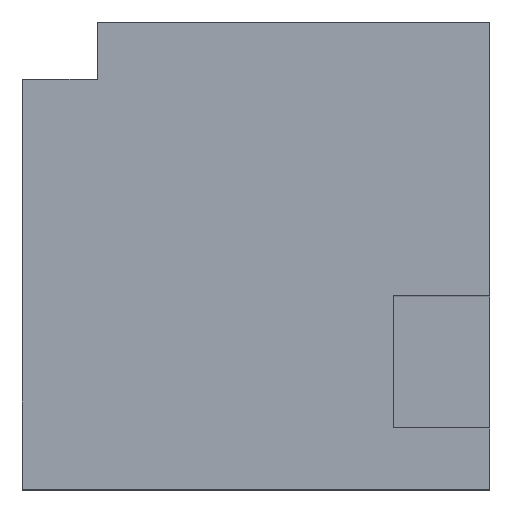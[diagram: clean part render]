
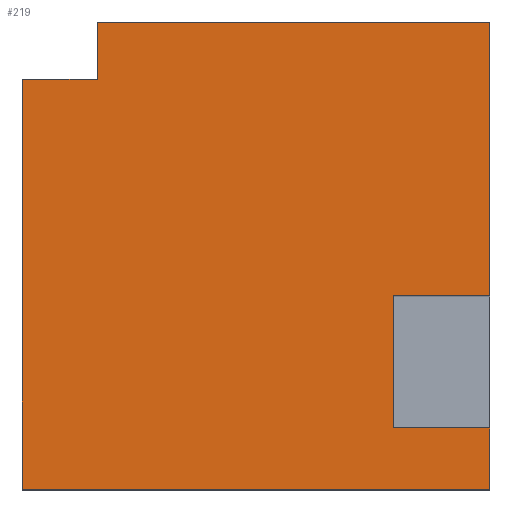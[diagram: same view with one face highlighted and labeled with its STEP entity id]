
A CAD part, top view. The second image highlights one B-rep face of the part: STEP entity #219.
In plain terms, the highlighted planar face has unit normal (0, 0, 1).
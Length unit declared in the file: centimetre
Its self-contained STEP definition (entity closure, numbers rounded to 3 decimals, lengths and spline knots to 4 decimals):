
#8 = DIRECTION ( 'NONE',  ( 1., 0., 0. ) ) ;
#33 = DIRECTION ( 'NONE',  ( 1., 0., 0. ) ) ;
#36 = DIRECTION ( 'NONE',  ( -1., 0., 0. ) ) ;
#41 = ORIENTED_EDGE ( 'NONE', *, *, #705, .T. ) ;
#48 = VERTEX_POINT ( 'NONE', #840 ) ;
#49 = CARTESIAN_POINT ( 'NONE',  ( 794.0299, 130.9693, 1000. ) ) ;
#58 = EDGE_CURVE ( 'NONE', #780, #957, #320, .T. ) ;
#75 = VERTEX_POINT ( 'NONE', #901 ) ;
#123 = LINE ( 'NONE', #49, #388 ) ;
#127 = LINE ( 'NONE', #600, #225 ) ;
#129 = CARTESIAN_POINT ( 'NONE',  ( 160.3993, 1000., 1000. ) ) ;
#142 = VERTEX_POINT ( 'NONE', #379 ) ;
#145 = CARTESIAN_POINT ( 'NONE',  ( 160.3993, 877.2989, 1000. ) ) ;
#167 = CARTESIAN_POINT ( 'NONE',  ( 0., 1000., 1000. ) ) ;
#204 = VECTOR ( 'NONE', #869, 100. ) ;
#206 = LINE ( 'NONE', #611, #409 ) ;
#219 = ADVANCED_FACE ( 'NONE', ( #432 ), #744, .T. ) ;
#220 = ORIENTED_EDGE ( 'NONE', *, *, #420, .T. ) ;
#225 = VECTOR ( 'NONE', #36, 100. ) ;
#233 = ORIENTED_EDGE ( 'NONE', *, *, #58, .T. ) ;
#260 = CARTESIAN_POINT ( 'NONE',  ( 1000., 130.9693, 1000. ) ) ;
#261 = VERTEX_POINT ( 'NONE', #260 ) ;
#281 = EDGE_CURVE ( 'NONE', #75, #261, #123, .T. ) ;
#283 = DIRECTION ( 'NONE',  ( 0., 1., 0. ) ) ;
#290 = ORIENTED_EDGE ( 'NONE', *, *, #935, .F. ) ;
#307 = VERTEX_POINT ( 'NONE', #129 ) ;
#320 = LINE ( 'NONE', #947, #584 ) ;
#348 = CARTESIAN_POINT ( 'NONE',  ( 1000., 1000., 1000. ) ) ;
#363 = EDGE_LOOP ( 'NONE', ( #704, #801, #233, #41, #531, #689, #977, #220, #370, #290 ) ) ;
#367 = VECTOR ( 'NONE', #596, 100. ) ;
#370 = ORIENTED_EDGE ( 'NONE', *, *, #721, .T. ) ;
#379 = CARTESIAN_POINT ( 'NONE',  ( 794.0299, 413.8973, 1000. ) ) ;
#388 = VECTOR ( 'NONE', #992, 100. ) ;
#392 = CARTESIAN_POINT ( 'NONE',  ( 794.0299, 413.8973, 1000. ) ) ;
#401 = DIRECTION ( 'NONE',  ( -1., 0., 0. ) ) ;
#409 = VECTOR ( 'NONE', #836, 100. ) ;
#411 = EDGE_CURVE ( 'NONE', #907, #48, #986, .T. ) ;
#420 = EDGE_CURVE ( 'NONE', #745, #748, #466, .T. ) ;
#428 = CARTESIAN_POINT ( 'NONE',  ( 794.0299, 130.9693, 1000. ) ) ;
#432 = FACE_OUTER_BOUND ( 'NONE', #363, .T. ) ;
#438 = VECTOR ( 'NONE', #283, 100. ) ;
#466 = LINE ( 'NONE', #904, #438 ) ;
#470 = LINE ( 'NONE', #392, #825 ) ;
#485 = EDGE_CURVE ( 'NONE', #745, #142, #470, .T. ) ;
#488 = EDGE_CURVE ( 'NONE', #48, #780, #1012, .T. ) ;
#508 = DIRECTION ( 'NONE',  ( 0., 1., 0. ) ) ;
#509 = DIRECTION ( 'NONE',  ( 0., -1., 0. ) ) ;
#510 = CARTESIAN_POINT ( 'NONE',  ( 0., 0., 1000. ) ) ;
#531 = ORIENTED_EDGE ( 'NONE', *, *, #281, .F. ) ;
#582 = LINE ( 'NONE', #891, #613 ) ;
#584 = VECTOR ( 'NONE', #8, 100. ) ;
#594 = EDGE_CURVE ( 'NONE', #142, #75, #658, .T. ) ;
#596 = DIRECTION ( 'NONE',  ( -1., 0., 0. ) ) ;
#600 = CARTESIAN_POINT ( 'NONE',  ( 0., 1000., 1000. ) ) ;
#611 = CARTESIAN_POINT ( 'NONE',  ( 1000., 1000., 1000. ) ) ;
#613 = VECTOR ( 'NONE', #508, 100. ) ;
#658 = LINE ( 'NONE', #428, #828 ) ;
#670 = AXIS2_PLACEMENT_3D ( 'NONE', #742, #798, #33 ) ;
#689 = ORIENTED_EDGE ( 'NONE', *, *, #594, .F. ) ;
#704 = ORIENTED_EDGE ( 'NONE', *, *, #411, .T. ) ;
#705 = EDGE_CURVE ( 'NONE', #957, #261, #206, .T. ) ;
#721 = EDGE_CURVE ( 'NONE', #748, #307, #127, .T. ) ;
#742 = CARTESIAN_POINT ( 'NONE',  ( 0., 0., 1000. ) ) ;
#744 = PLANE ( 'NONE',  #670 ) ;
#745 = VERTEX_POINT ( 'NONE', #997 ) ;
#748 = VERTEX_POINT ( 'NONE', #348 ) ;
#780 = VERTEX_POINT ( 'NONE', #510 ) ;
#793 = CARTESIAN_POINT ( 'NONE',  ( 1000., 0., 1000. ) ) ;
#798 = DIRECTION ( 'NONE',  ( 0., 0., 1. ) ) ;
#801 = ORIENTED_EDGE ( 'NONE', *, *, #488, .T. ) ;
#816 = CARTESIAN_POINT ( 'NONE',  ( 160.3993, 877.2989, 1000. ) ) ;
#825 = VECTOR ( 'NONE', #401, 100. ) ;
#828 = VECTOR ( 'NONE', #509, 100. ) ;
#836 = DIRECTION ( 'NONE',  ( 0., 1., 0. ) ) ;
#840 = CARTESIAN_POINT ( 'NONE',  ( 0., 877.2989, 1000. ) ) ;
#869 = DIRECTION ( 'NONE',  ( 0., -1., 0. ) ) ;
#891 = CARTESIAN_POINT ( 'NONE',  ( 160.3993, 1000., 1000. ) ) ;
#901 = CARTESIAN_POINT ( 'NONE',  ( 794.0299, 130.9693, 1000. ) ) ;
#904 = CARTESIAN_POINT ( 'NONE',  ( 1000., 1000., 1000. ) ) ;
#907 = VERTEX_POINT ( 'NONE', #816 ) ;
#935 = EDGE_CURVE ( 'NONE', #907, #307, #582, .T. ) ;
#947 = CARTESIAN_POINT ( 'NONE',  ( 0., 0., 1000. ) ) ;
#957 = VERTEX_POINT ( 'NONE', #793 ) ;
#977 = ORIENTED_EDGE ( 'NONE', *, *, #485, .F. ) ;
#986 = LINE ( 'NONE', #145, #367 ) ;
#992 = DIRECTION ( 'NONE',  ( 1., 0., 0. ) ) ;
#997 = CARTESIAN_POINT ( 'NONE',  ( 1000., 413.8973, 1000. ) ) ;
#1012 = LINE ( 'NONE', #167, #204 ) ;
